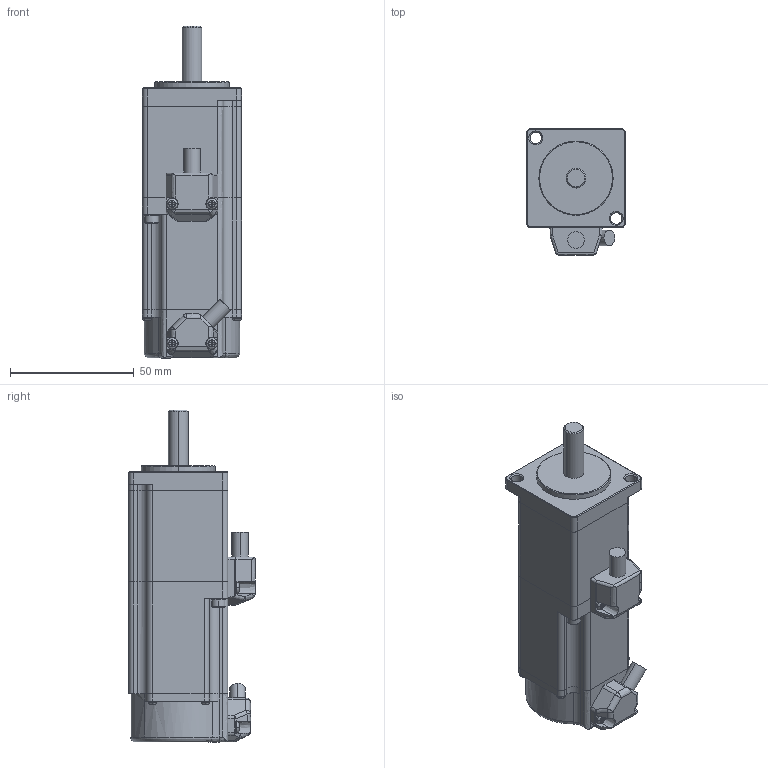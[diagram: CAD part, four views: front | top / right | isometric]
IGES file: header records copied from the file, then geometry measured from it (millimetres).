
Start section: Elysium IGES Interface
Global section: file name: 79H\\nas63\design\04MC研\saka\3DCAD\TBL-i2カタログまとめ\IGSデータ\TS4603_BK有.igs; native system: Creo Elements/Direct Modeling 17.0F  20-Aug-2012; preprocessor: Creo Element/Direct IGES_3D V2.2; author: Unknown; organization: Unknown; date: 20161222.154313; units: millimetre
Bounding box: 40 x 51.1 x 134.1 mm (x, y, z)
Volume: 163541.9 mm3; surface area: 21928.1 mm2
Topology: 1 solids, 1 shells, 562 faces, 1297 edges, 732 vertices
Faces by surface type: bspline 562
